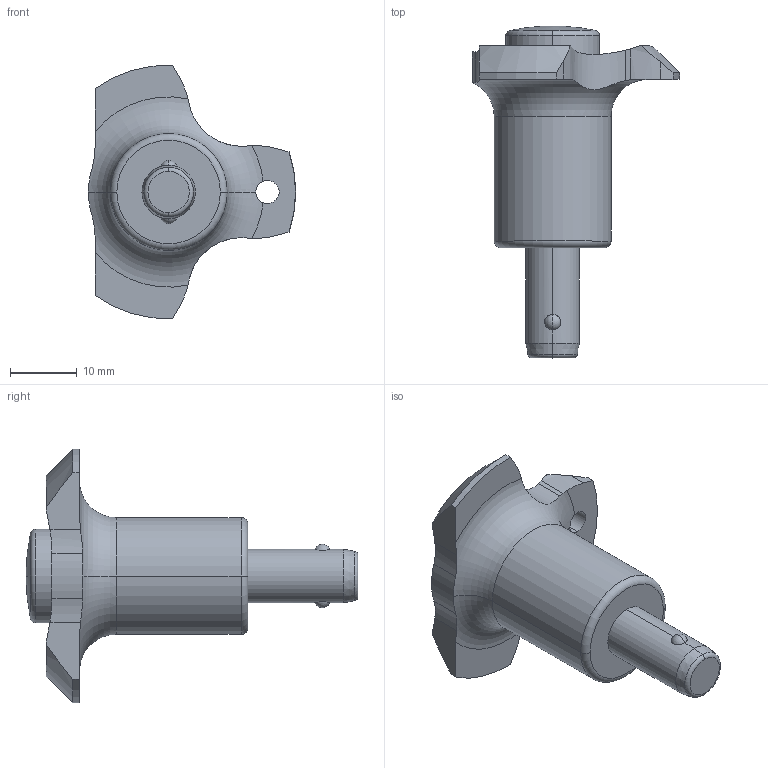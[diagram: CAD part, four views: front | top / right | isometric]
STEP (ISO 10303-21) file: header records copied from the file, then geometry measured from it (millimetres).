
FILE_DESCRIPTION (( 'STEP AP203' ), '1' );
FILE_NAME ('33180.W0022.step', '2025-01-06T11:14:53', ( '' ), ( '' ), 'SwSTEP 2.0', 'SolidWorks 2019', '' );
FILE_SCHEMA (( 'CONFIG_CONTROL_DESIGN' ));
Length unit declared in the file: millimetre
Products named in the file (4): Part3_33180.W0022; 33180.W0022; Part1_33180.W0022; Part2_33180.W0022
Assembly tree (3 placements, depth 2):
  33180.W0022
    Part1_33180.W0022
    Part2_33180.W0022
    Part3_33180.W0022
Bounding box: 31 x 49.7 x 37.98 mm (x, y, z)
Volume: 8774.9 mm3; surface area: 6182.6 mm2
Topology: 3 solids, 3 shells, 68 faces, 177 edges, 113 vertices
Faces by surface type: cylinder 26, plane 20, torus 8, sphere 8, cone 6
Entity records: 2783 total; most frequent: CARTESIAN_POINT 699, DIRECTION 371, ORIENTED_EDGE 354, EDGE_CURVE 177, AXIS2_PLACEMENT_3D 161, VERTEX_POINT 113, CIRCLE 87, EDGE_LOOP 70
